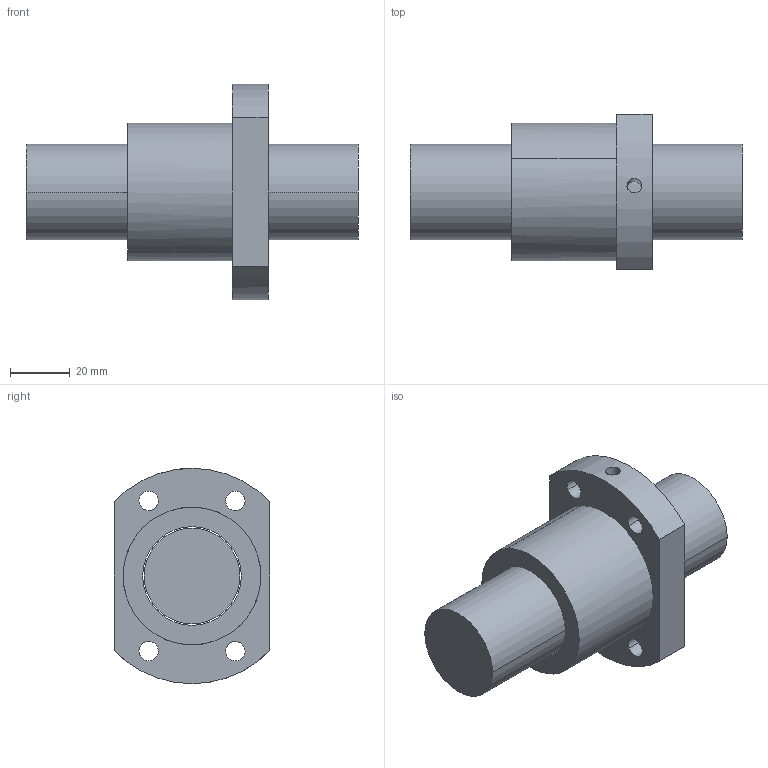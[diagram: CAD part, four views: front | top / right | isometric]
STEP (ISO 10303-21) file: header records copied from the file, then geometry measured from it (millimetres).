
FILE_DESCRIPTION(('CATIA V5 STEP Exchange'),'2;1');
FILE_NAME('C:\Users\aa\Documents\이댈\볼스크류\SFDR\완성품\SFD3204D.stp','2019-07-24T04:41:30+00:00',('none'),('none'),'CATIA Version 5 Release 20 SP 7 (IN-10)','CATIA V5 STEP AP203','none');
FILE_SCHEMA(('CONFIG_CONTROL_DESIGN'));
Length unit declared in the file: millimetre
Products named in the file (1): SFD3204D
Bounding box: 111 x 52 x 72 mm (x, y, z)
Volume: 144429.8 mm3; surface area: 31668.2 mm2
Topology: 2 solids, 2 shells, 37 faces, 84 edges, 56 vertices
Faces by surface type: cylinder 26, plane 11
Entity records: 1265 total; most frequent: CARTESIAN_POINT 403, ORIENTED_EDGE 168, DIRECTION 137, EDGE_CURVE 84, AXIS2_PLACEMENT_3D 72, VERTEX_POINT 56, EDGE_LOOP 54, ADVANCED_FACE 37
